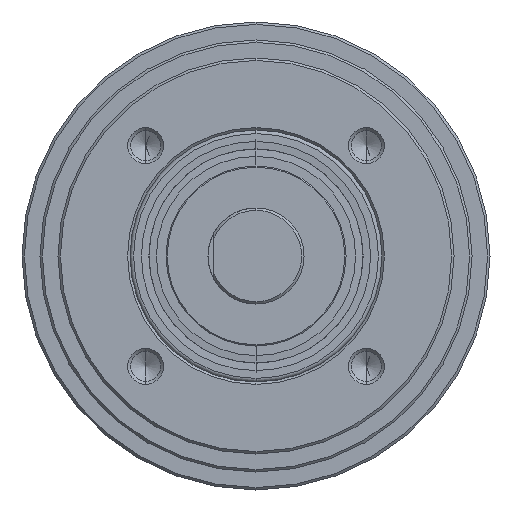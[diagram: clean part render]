
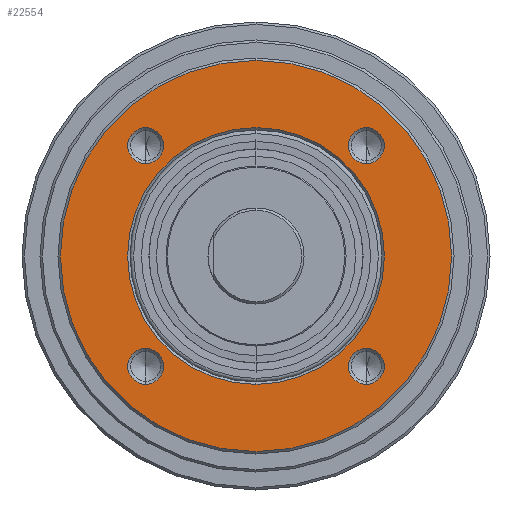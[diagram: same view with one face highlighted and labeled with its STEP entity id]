
A CAD part, left-side view. The second image highlights one B-rep face of the part: STEP entity #22554.
In plain terms, the highlighted planar face has unit normal (-1, 0, 0).
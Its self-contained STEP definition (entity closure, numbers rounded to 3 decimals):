
#10050 = CARTESIAN_POINT ( 'NONE',  ( 0., 0., 16.3 ) ) ;
#10247 = CARTESIAN_POINT ( 'NONE',  ( 0., -9.192, -10.692 ) ) ;
#10564 = AXIS2_PLACEMENT_3D ( 'NONE', #10571, #10570, #10569 ) ;
#10566 = CIRCLE ( 'NONE', #10564, 16.3 ) ;
#10568 = CARTESIAN_POINT ( 'NONE',  ( 0., 0., -16.3 ) ) ;
#10569 = DIRECTION ( 'NONE',  ( 0., 0., -1. ) ) ;
#10570 = DIRECTION ( 'NONE',  ( -1., 0., 0. ) ) ;
#10571 = CARTESIAN_POINT ( 'NONE',  ( 0., 0., 0. ) ) ;
#10617 = CARTESIAN_POINT ( 'NONE',  ( 0., 0., 10.7 ) ) ;
#10618 = CARTESIAN_POINT ( 'NONE',  ( 0., 0., -10.7 ) ) ;
#12129 = DIRECTION ( 'NONE',  ( 0., 0., -1. ) ) ;
#12130 = DIRECTION ( 'NONE',  ( 1., 0., 0. ) ) ;
#12131 = CARTESIAN_POINT ( 'NONE',  ( 0., 0., 0. ) ) ;
#12132 = AXIS2_PLACEMENT_3D ( 'NONE', #12131, #12130, #12129 ) ;
#12133 = CIRCLE ( 'NONE', #12132, 10.7 ) ;
#21563 = DIRECTION ( 'NONE',  ( 0., 0., 1. ) ) ;
#21564 = DIRECTION ( 'NONE',  ( -1., 0., 0. ) ) ;
#21565 = CARTESIAN_POINT ( 'NONE',  ( 0., 9.192, 9.192 ) ) ;
#21566 = AXIS2_PLACEMENT_3D ( 'NONE', #21565, #21564, #21563 ) ;
#21567 = CIRCLE ( 'NONE', #21566, 1.5 ) ;
#21572 = DIRECTION ( 'NONE',  ( 0., 0., -1. ) ) ;
#21573 = DIRECTION ( 'NONE',  ( 1., 0., 0. ) ) ;
#21574 = AXIS2_PLACEMENT_3D ( 'NONE', #21649, #21573, #21572 ) ;
#21575 = CIRCLE ( 'NONE', #21574, 10.7 ) ;
#21649 = CARTESIAN_POINT ( 'NONE',  ( 0., 0., 0. ) ) ;
#21940 = DIRECTION ( 'NONE',  ( 0., 0., -1. ) ) ;
#22007 = FACE_OUTER_BOUND ( 'NONE', #22451, .T. ) ;
#22008 = FACE_BOUND ( 'NONE', #22540, .T. ) ;
#22009 = FACE_BOUND ( 'NONE', #22536, .T. ) ;
#22010 = FACE_BOUND ( 'NONE', #22561, .T. ) ;
#22011 = FACE_BOUND ( 'NONE', #22576, .T. ) ;
#22012 = FACE_BOUND ( 'NONE', #22574, .T. ) ;
#22014 = DIRECTION ( 'NONE',  ( 0., 0., 1. ) ) ;
#22015 = DIRECTION ( 'NONE',  ( -1., 0., 0. ) ) ;
#22016 = CARTESIAN_POINT ( 'NONE',  ( 0., -9.192, -9.192 ) ) ;
#22017 = AXIS2_PLACEMENT_3D ( 'NONE', #22016, #22015, #22014 ) ;
#22023 = CIRCLE ( 'NONE', #22017, 1.5 ) ;
#22056 = DIRECTION ( 'NONE',  ( 1., 0., 0. ) ) ;
#22057 = CARTESIAN_POINT ( 'NONE',  ( 0., 10.5, 0. ) ) ;
#22058 = AXIS2_PLACEMENT_3D ( 'NONE', #22057, #22056, #21940 ) ;
#22061 = PLANE ( 'NONE',  #22058 ) ;
#22088 = DIRECTION ( 'NONE',  ( 0., 0., 1. ) ) ;
#22089 = DIRECTION ( 'NONE',  ( -1., 0., 0. ) ) ;
#22090 = CARTESIAN_POINT ( 'NONE',  ( 0., -9.192, 9.192 ) ) ;
#22099 = AXIS2_PLACEMENT_3D ( 'NONE', #22090, #22089, #22088 ) ;
#22100 = CIRCLE ( 'NONE', #22099, 1.5 ) ;
#22163 = DIRECTION ( 'NONE',  ( 0., 0., 1. ) ) ;
#22164 = DIRECTION ( 'NONE',  ( -1., 0., 0. ) ) ;
#22165 = CARTESIAN_POINT ( 'NONE',  ( 0., 9.192, -9.192 ) ) ;
#22166 = AXIS2_PLACEMENT_3D ( 'NONE', #22165, #22164, #22163 ) ;
#22167 = CIRCLE ( 'NONE', #22166, 1.5 ) ;
#22204 = DIRECTION ( 'NONE',  ( 0., 0., -1. ) ) ;
#22205 = DIRECTION ( 'NONE',  ( -1., 0., 0. ) ) ;
#22206 = CARTESIAN_POINT ( 'NONE',  ( 0., 0., 0. ) ) ;
#22207 = AXIS2_PLACEMENT_3D ( 'NONE', #22206, #22205, #22204 ) ;
#22208 = CIRCLE ( 'NONE', #22207, 16.3 ) ;
#22410 = ORIENTED_EDGE ( 'NONE', *, *, #24765, .T. ) ;
#22449 = ORIENTED_EDGE ( 'NONE', *, *, #22450, .T. ) ;
#22450 = EDGE_CURVE ( 'NONE', #24751, #24752, #21575, .T. ) ;
#22451 = EDGE_LOOP ( 'NONE', ( #22578, #22410 ) ) ;
#22454 = EDGE_CURVE ( 'NONE', #24583, #24571, #21567, .T. ) ;
#22536 = EDGE_LOOP ( 'NONE', ( #22537, #22539 ) ) ;
#22537 = ORIENTED_EDGE ( 'NONE', *, *, #22538, .F. ) ;
#22538 = EDGE_CURVE ( 'NONE', #24629, #24704, #22023, .T. ) ;
#22539 = ORIENTED_EDGE ( 'NONE', *, *, #24529, .F. ) ;
#22540 = EDGE_LOOP ( 'NONE', ( #22541, #22449 ) ) ;
#22541 = ORIENTED_EDGE ( 'NONE', *, *, #24947, .T. ) ;
#22551 = ORIENTED_EDGE ( 'NONE', *, *, #24545, .F. ) ;
#22552 = ORIENTED_EDGE ( 'NONE', *, *, #22454, .F. ) ;
#22554 = ADVANCED_FACE ( 'NONE', ( #22012, #22011, #22010, #22009, #22008, #22007 ), #22061, .F. ) ;
#22557 = ORIENTED_EDGE ( 'NONE', *, *, #22558, .F. ) ;
#22558 = EDGE_CURVE ( 'NONE', #24600, #24597, #22100, .T. ) ;
#22559 = ORIENTED_EDGE ( 'NONE', *, *, #24599, .F. ) ;
#22560 = ORIENTED_EDGE ( 'NONE', *, *, #24524, .F. ) ;
#22561 = EDGE_LOOP ( 'NONE', ( #22557, #22559 ) ) ;
#22570 = ORIENTED_EDGE ( 'NONE', *, *, #22575, .F. ) ;
#22574 = EDGE_LOOP ( 'NONE', ( #22570, #22551 ) ) ;
#22575 = EDGE_CURVE ( 'NONE', #24543, #24564, #22167, .T. ) ;
#22576 = EDGE_LOOP ( 'NONE', ( #22552, #22560 ) ) ;
#22578 = ORIENTED_EDGE ( 'NONE', *, *, #22579, .T. ) ;
#22579 = EDGE_CURVE ( 'NONE', #24766, #24960, #22208, .T. ) ;
#23334 = DIRECTION ( 'NONE',  ( 0., 0., 1. ) ) ;
#23335 = DIRECTION ( 'NONE',  ( -1., 0., 0. ) ) ;
#23336 = CARTESIAN_POINT ( 'NONE',  ( 0., 9.192, 9.192 ) ) ;
#23337 = AXIS2_PLACEMENT_3D ( 'NONE', #23336, #23335, #23334 ) ;
#23347 = CARTESIAN_POINT ( 'NONE',  ( 0., -9.192, -9.192 ) ) ;
#23348 = AXIS2_PLACEMENT_3D ( 'NONE', #23347, #23369, #23368 ) ;
#23349 = CIRCLE ( 'NONE', #23348, 1.5 ) ;
#23368 = DIRECTION ( 'NONE',  ( 0., 0., 1. ) ) ;
#23369 = DIRECTION ( 'NONE',  ( -1., 0., 0. ) ) ;
#23375 = CIRCLE ( 'NONE', #23337, 1.5 ) ;
#23783 = DIRECTION ( 'NONE',  ( -1., 0., 0. ) ) ;
#23784 = CIRCLE ( 'NONE', #23816, 1.5 ) ;
#23813 = CARTESIAN_POINT ( 'NONE',  ( 0., 9.192, -7.692 ) ) ;
#23815 = CARTESIAN_POINT ( 'NONE',  ( 0., 9.192, -9.192 ) ) ;
#23816 = AXIS2_PLACEMENT_3D ( 'NONE', #23815, #23783, #23817 ) ;
#23817 = DIRECTION ( 'NONE',  ( 0., 0., 1. ) ) ;
#23840 = CARTESIAN_POINT ( 'NONE',  ( 0., 9.192, -10.692 ) ) ;
#23866 = CARTESIAN_POINT ( 'NONE',  ( 0., 9.192, 10.692 ) ) ;
#23877 = CARTESIAN_POINT ( 'NONE',  ( 0., 9.192, 7.692 ) ) ;
#24031 = CARTESIAN_POINT ( 'NONE',  ( 0., -9.192, 7.692 ) ) ;
#24045 = CARTESIAN_POINT ( 'NONE',  ( 0., -9.192, 10.692 ) ) ;
#24046 = DIRECTION ( 'NONE',  ( 0., 0., 1. ) ) ;
#24047 = DIRECTION ( 'NONE',  ( -1., 0., 0. ) ) ;
#24048 = CARTESIAN_POINT ( 'NONE',  ( 0., -9.192, 9.192 ) ) ;
#24049 = AXIS2_PLACEMENT_3D ( 'NONE', #24048, #24047, #24046 ) ;
#24050 = CIRCLE ( 'NONE', #24049, 1.5 ) ;
#24213 = CARTESIAN_POINT ( 'NONE',  ( 0., -9.192, -7.692 ) ) ;
#24524 = EDGE_CURVE ( 'NONE', #24571, #24583, #23375, .T. ) ;
#24529 = EDGE_CURVE ( 'NONE', #24704, #24629, #23349, .T. ) ;
#24543 = VERTEX_POINT ( 'NONE', #23813 ) ;
#24545 = EDGE_CURVE ( 'NONE', #24564, #24543, #23784, .T. ) ;
#24564 = VERTEX_POINT ( 'NONE', #23840 ) ;
#24571 = VERTEX_POINT ( 'NONE', #23877 ) ;
#24583 = VERTEX_POINT ( 'NONE', #23866 ) ;
#24597 = VERTEX_POINT ( 'NONE', #24031 ) ;
#24599 = EDGE_CURVE ( 'NONE', #24597, #24600, #24050, .T. ) ;
#24600 = VERTEX_POINT ( 'NONE', #24045 ) ;
#24629 = VERTEX_POINT ( 'NONE', #24213 ) ;
#24704 = VERTEX_POINT ( 'NONE', #10247 ) ;
#24751 = VERTEX_POINT ( 'NONE', #10618 ) ;
#24752 = VERTEX_POINT ( 'NONE', #10617 ) ;
#24765 = EDGE_CURVE ( 'NONE', #24960, #24766, #10566, .T. ) ;
#24766 = VERTEX_POINT ( 'NONE', #10568 ) ;
#24947 = EDGE_CURVE ( 'NONE', #24752, #24751, #12133, .T. ) ;
#24960 = VERTEX_POINT ( 'NONE', #10050 ) ;
